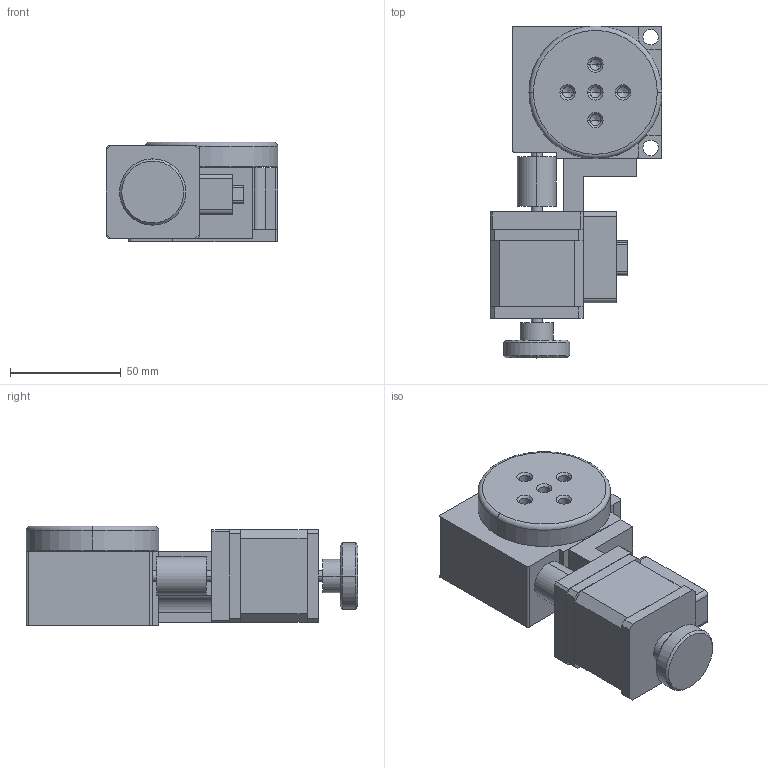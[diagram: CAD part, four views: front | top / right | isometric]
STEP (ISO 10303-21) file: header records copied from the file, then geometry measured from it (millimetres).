
FILE_DESCRIPTION (( 'STEP AP203' ), '1' );
FILE_NAME ('60蛌怢酘忒.STEP', '2020-10-10T07:48:27', ( 'PC' ), ( 'Microsoft' ), 'SwSTEP 2.0', 'SolidWorks 2016', '' );
FILE_SCHEMA (( 'CONFIG_CONTROL_DESIGN' ));
Length unit declared in the file: millimetre
Products named in the file (3): 60蛌怢酘忒; YK42萇儂
Assembly tree (2 placements, depth 2):
  60蛌怢酘忒
    60蛌怢酘忒
    YK42萇儂
Bounding box: 77.5 x 150 x 45 mm (x, y, z)
Volume: 275004.3 mm3; surface area: 62876.4 mm2
Topology: 13 solids, 13 shells, 175 faces, 416 edges, 263 vertices
Faces by surface type: plane 88, cylinder 61, cone 24, torus 2
Entity records: 5347 total; most frequent: CARTESIAN_POINT 911, DIRECTION 906, ORIENTED_EDGE 812, EDGE_CURVE 406, AXIS2_PLACEMENT_3D 322, VERTEX_POINT 263, VECTOR 262, LINE 262
